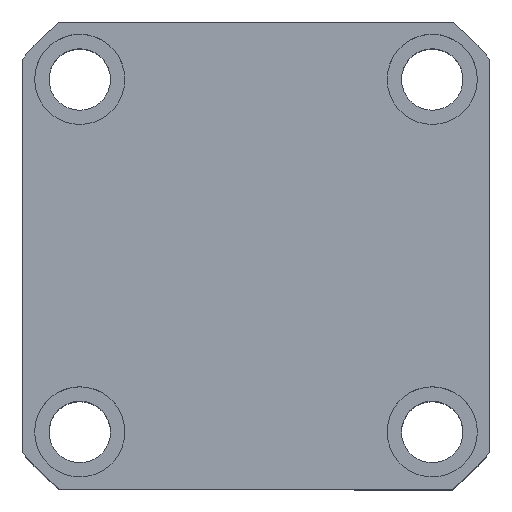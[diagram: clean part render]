
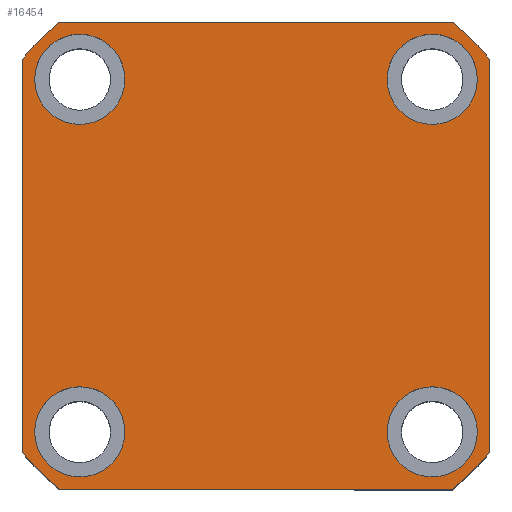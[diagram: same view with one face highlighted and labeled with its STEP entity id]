
A CAD part, top view. The second image highlights one B-rep face of the part: STEP entity #16454.
In plain terms, the highlighted planar face has unit normal (0, 0, 1) as drawn and (0, 0, -1) by its records, which use the part's own axes.
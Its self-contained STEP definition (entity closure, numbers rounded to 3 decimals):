
#145 = VERTEX_POINT ( 'NONE', #15303 ) ;
#303 = CIRCLE ( 'NONE', #19655, 11. ) ;
#502 = EDGE_CURVE ( 'NONE', #10354, #7728, #3028, .T. ) ;
#652 = DIRECTION ( 'NONE',  ( 0., 0., -1. ) ) ;
#840 = VERTEX_POINT ( 'NONE', #8648 ) ;
#1048 = CIRCLE ( 'NONE', #4231, 74.5 ) ;
#1173 = VERTEX_POINT ( 'NONE', #7634 ) ;
#1177 = CARTESIAN_POINT ( 'NONE',  ( 32., -43., 0. ) ) ;
#1225 = PLANE ( 'NONE',  #1729 ) ;
#1404 = CARTESIAN_POINT ( 'NONE',  ( -43., -43., 0. ) ) ;
#1467 = EDGE_CURVE ( 'NONE', #17468, #17967, #10609, .T. ) ;
#1620 = CIRCLE ( 'NONE', #2298, 11. ) ;
#1729 = AXIS2_PLACEMENT_3D ( 'NONE', #12317, #2859, #13895 ) ;
#1750 = DIRECTION ( 'NONE',  ( 0., 0., 1. ) ) ;
#1798 = VECTOR ( 'NONE', #17613, 1000. ) ;
#1991 = CARTESIAN_POINT ( 'NONE',  ( -54., 43., 0. ) ) ;
#2002 = LINE ( 'NONE', #2777, #2514 ) ;
#2139 = EDGE_CURVE ( 'NONE', #19807, #3815, #8124, .T. ) ;
#2298 = AXIS2_PLACEMENT_3D ( 'NONE', #6820, #17810, #8400 ) ;
#2332 = CIRCLE ( 'NONE', #14894, 74.5 ) ;
#2422 = CARTESIAN_POINT ( 'NONE',  ( -57., -57., 0. ) ) ;
#2514 = VECTOR ( 'NONE', #12250, 1000. ) ;
#2777 = CARTESIAN_POINT ( 'NONE',  ( -57., 57., 0. ) ) ;
#2859 = DIRECTION ( 'NONE',  ( 0., 0., 1. ) ) ;
#2998 = CARTESIAN_POINT ( 'NONE',  ( 54., -43., 0. ) ) ;
#3023 = DIRECTION ( 'NONE',  ( -1., 0., 0. ) ) ;
#3028 = CIRCLE ( 'NONE', #5439, 11. ) ;
#3113 = CIRCLE ( 'NONE', #12928, 11. ) ;
#3119 = CARTESIAN_POINT ( 'NONE',  ( -32., 43., 0. ) ) ;
#3548 = VERTEX_POINT ( 'NONE', #14840 ) ;
#3588 = CARTESIAN_POINT ( 'NONE',  ( 57., 57., 0. ) ) ;
#3808 = DIRECTION ( 'NONE',  ( 0., 0., 1. ) ) ;
#3815 = VERTEX_POINT ( 'NONE', #15125 ) ;
#3837 = DIRECTION ( 'NONE',  ( 0., 0., -1. ) ) ;
#4089 = DIRECTION ( 'NONE',  ( 0., 0., -1. ) ) ;
#4231 = AXIS2_PLACEMENT_3D ( 'NONE', #13731, #4262, #15313 ) ;
#4262 = DIRECTION ( 'NONE',  ( 0., 0., 1. ) ) ;
#4742 = CARTESIAN_POINT ( 'NONE',  ( 43., -43., 0. ) ) ;
#5099 = AXIS2_PLACEMENT_3D ( 'NONE', #9044, #20055, #10637 ) ;
#5439 = AXIS2_PLACEMENT_3D ( 'NONE', #10210, #10287, #10495 ) ;
#5497 = FACE_BOUND ( 'NONE', #6026, .T. ) ;
#6026 = EDGE_LOOP ( 'NONE', ( #13993, #19977 ) ) ;
#6047 = LINE ( 'NONE', #6608, #1798 ) ;
#6350 = DIRECTION ( 'NONE',  ( -1., 0., 0. ) ) ;
#6389 = CARTESIAN_POINT ( 'NONE',  ( -47.971, 57., 0. ) ) ;
#6428 = EDGE_CURVE ( 'NONE', #10973, #8757, #1620, .T. ) ;
#6497 = CARTESIAN_POINT ( 'NONE',  ( -43., 43., 0. ) ) ;
#6540 = ORIENTED_EDGE ( 'NONE', *, *, #16188, .F. ) ;
#6555 = ORIENTED_EDGE ( 'NONE', *, *, #16712, .F. ) ;
#6608 = CARTESIAN_POINT ( 'NONE',  ( -57., 57., 0. ) ) ;
#6820 = CARTESIAN_POINT ( 'NONE',  ( 43., -43., 0. ) ) ;
#7002 = DIRECTION ( 'NONE',  ( 1., 0., 0. ) ) ;
#7076 = EDGE_CURVE ( 'NONE', #17967, #15948, #19146, .T. ) ;
#7315 = VERTEX_POINT ( 'NONE', #3119 ) ;
#7405 = CARTESIAN_POINT ( 'NONE',  ( 54., 43., 0. ) ) ;
#7506 = CIRCLE ( 'NONE', #14841, 11. ) ;
#7601 = EDGE_CURVE ( 'NONE', #7728, #10354, #11043, .T. ) ;
#7618 = VECTOR ( 'NONE', #16216, 1000. ) ;
#7634 = CARTESIAN_POINT ( 'NONE',  ( -32., -43., 0. ) ) ;
#7728 = VERTEX_POINT ( 'NONE', #8749 ) ;
#7918 = AXIS2_PLACEMENT_3D ( 'NONE', #13303, #3837, #14891 ) ;
#8094 = DIRECTION ( 'NONE',  ( -1., 0., 0. ) ) ;
#8124 = CIRCLE ( 'NONE', #11677, 74.5 ) ;
#8250 = EDGE_CURVE ( 'NONE', #3548, #145, #2332, .T. ) ;
#8400 = DIRECTION ( 'NONE',  ( -1., 0., 0. ) ) ;
#8593 = ORIENTED_EDGE ( 'NONE', *, *, #1467, .F. ) ;
#8648 = CARTESIAN_POINT ( 'NONE',  ( -54., -43., 0. ) ) ;
#8749 = CARTESIAN_POINT ( 'NONE',  ( 32., 43., 0. ) ) ;
#8757 = VERTEX_POINT ( 'NONE', #1177 ) ;
#9044 = CARTESIAN_POINT ( 'NONE',  ( 0., 0., 0. ) ) ;
#9186 = ORIENTED_EDGE ( 'NONE', *, *, #6428, .F. ) ;
#9212 = FACE_OUTER_BOUND ( 'NONE', #14675, .T. ) ;
#9495 = ORIENTED_EDGE ( 'NONE', *, *, #7076, .F. ) ;
#9671 = ORIENTED_EDGE ( 'NONE', *, *, #9957, .F. ) ;
#9957 = EDGE_CURVE ( 'NONE', #15925, #7315, #303, .T. ) ;
#10072 = VERTEX_POINT ( 'NONE', #14565 ) ;
#10163 = CARTESIAN_POINT ( 'NONE',  ( -43., -43., 0. ) ) ;
#10210 = CARTESIAN_POINT ( 'NONE',  ( 43., 43., 0. ) ) ;
#10287 = DIRECTION ( 'NONE',  ( 0., 0., -1. ) ) ;
#10354 = VERTEX_POINT ( 'NONE', #7405 ) ;
#10489 = EDGE_CURVE ( 'NONE', #8757, #10973, #3113, .T. ) ;
#10495 = DIRECTION ( 'NONE',  ( -1., 0., 0. ) ) ;
#10598 = ORIENTED_EDGE ( 'NONE', *, *, #16851, .F. ) ;
#10609 = LINE ( 'NONE', #3588, #7618 ) ;
#10637 = DIRECTION ( 'NONE',  ( 1., 0., 0. ) ) ;
#10973 = VERTEX_POINT ( 'NONE', #2998 ) ;
#11043 = CIRCLE ( 'NONE', #7918, 11. ) ;
#11254 = CARTESIAN_POINT ( 'NONE',  ( 0., 0., 0. ) ) ;
#11486 = ORIENTED_EDGE ( 'NONE', *, *, #12438, .F. ) ;
#11677 = AXIS2_PLACEMENT_3D ( 'NONE', #13278, #3808, #14860 ) ;
#11679 = LINE ( 'NONE', #2422, #19548 ) ;
#11750 = DIRECTION ( 'NONE',  ( -1., 0., 0. ) ) ;
#12211 = EDGE_CURVE ( 'NONE', #10072, #17468, #1048, .T. ) ;
#12243 = ORIENTED_EDGE ( 'NONE', *, *, #16165, .F. ) ;
#12250 = DIRECTION ( 'NONE',  ( -1., 0., 0. ) ) ;
#12317 = CARTESIAN_POINT ( 'NONE',  ( 0., 0., 0. ) ) ;
#12438 = EDGE_CURVE ( 'NONE', #1173, #840, #19578, .T. ) ;
#12490 = DIRECTION ( 'NONE',  ( 0., 0., -1. ) ) ;
#12613 = EDGE_CURVE ( 'NONE', #3815, #3548, #6047, .T. ) ;
#12699 = ORIENTED_EDGE ( 'NONE', *, *, #8250, .F. ) ;
#12713 = AXIS2_PLACEMENT_3D ( 'NONE', #1404, #12490, #3023 ) ;
#12826 = DIRECTION ( 'NONE',  ( 1., 0., 0. ) ) ;
#12928 = AXIS2_PLACEMENT_3D ( 'NONE', #4742, #15791, #6350 ) ;
#13065 = CARTESIAN_POINT ( 'NONE',  ( 47.971, 57., 0. ) ) ;
#13175 = EDGE_LOOP ( 'NONE', ( #16249, #9186 ) ) ;
#13278 = CARTESIAN_POINT ( 'NONE',  ( 0., 0., 0. ) ) ;
#13303 = CARTESIAN_POINT ( 'NONE',  ( 43., 43., 0. ) ) ;
#13393 = FACE_BOUND ( 'NONE', #17256, .T. ) ;
#13448 = ORIENTED_EDGE ( 'NONE', *, *, #12613, .F. ) ;
#13553 = CARTESIAN_POINT ( 'NONE',  ( -43., 43., 0. ) ) ;
#13731 = CARTESIAN_POINT ( 'NONE',  ( 0., 0., 0. ) ) ;
#13799 = CARTESIAN_POINT ( 'NONE',  ( 57., -47.971, 0. ) ) ;
#13895 = DIRECTION ( 'NONE',  ( 1., 0., 0. ) ) ;
#13911 = FACE_BOUND ( 'NONE', #13175, .T. ) ;
#13993 = ORIENTED_EDGE ( 'NONE', *, *, #7601, .F. ) ;
#14565 = CARTESIAN_POINT ( 'NONE',  ( 47.971, -57., 0. ) ) ;
#14675 = EDGE_LOOP ( 'NONE', ( #9495, #8593, #17357, #12243, #12699, #13448, #18361, #10598 ) ) ;
#14840 = CARTESIAN_POINT ( 'NONE',  ( -57., -47.971, 0. ) ) ;
#14841 = AXIS2_PLACEMENT_3D ( 'NONE', #13553, #4089, #15139 ) ;
#14860 = DIRECTION ( 'NONE',  ( 1., 0., 0. ) ) ;
#14874 = CARTESIAN_POINT ( 'NONE',  ( 57., 47.971, 0. ) ) ;
#14891 = DIRECTION ( 'NONE',  ( -1., 0., 0. ) ) ;
#14894 = AXIS2_PLACEMENT_3D ( 'NONE', #11254, #1750, #12826 ) ;
#15125 = CARTESIAN_POINT ( 'NONE',  ( -57., 47.971, 0. ) ) ;
#15139 = DIRECTION ( 'NONE',  ( -1., 0., 0. ) ) ;
#15303 = CARTESIAN_POINT ( 'NONE',  ( -47.971, -57., 0. ) ) ;
#15313 = DIRECTION ( 'NONE',  ( 1., 0., 0. ) ) ;
#15532 = AXIS2_PLACEMENT_3D ( 'NONE', #10163, #652, #11750 ) ;
#15791 = DIRECTION ( 'NONE',  ( 0., 0., -1. ) ) ;
#15925 = VERTEX_POINT ( 'NONE', #1991 ) ;
#15948 = VERTEX_POINT ( 'NONE', #13065 ) ;
#16101 = CIRCLE ( 'NONE', #15532, 11. ) ;
#16165 = EDGE_CURVE ( 'NONE', #145, #10072, #11679, .T. ) ;
#16188 = EDGE_CURVE ( 'NONE', #7315, #15925, #7506, .T. ) ;
#16216 = DIRECTION ( 'NONE',  ( 0., 1., 0. ) ) ;
#16249 = ORIENTED_EDGE ( 'NONE', *, *, #10489, .F. ) ;
#16454 = ADVANCED_FACE ( 'NONE', ( #13393, #13911, #5497, #17573, #9212 ), #1225, .F. ) ;
#16712 = EDGE_CURVE ( 'NONE', #840, #1173, #16101, .T. ) ;
#16851 = EDGE_CURVE ( 'NONE', #15948, #19807, #2002, .T. ) ;
#17256 = EDGE_LOOP ( 'NONE', ( #6555, #11486 ) ) ;
#17357 = ORIENTED_EDGE ( 'NONE', *, *, #12211, .F. ) ;
#17415 = EDGE_LOOP ( 'NONE', ( #9671, #6540 ) ) ;
#17468 = VERTEX_POINT ( 'NONE', #13799 ) ;
#17514 = DIRECTION ( 'NONE',  ( 0., 0., -1. ) ) ;
#17573 = FACE_BOUND ( 'NONE', #17415, .T. ) ;
#17613 = DIRECTION ( 'NONE',  ( 0., -1., 0. ) ) ;
#17810 = DIRECTION ( 'NONE',  ( 0., 0., -1. ) ) ;
#17967 = VERTEX_POINT ( 'NONE', #14874 ) ;
#18361 = ORIENTED_EDGE ( 'NONE', *, *, #2139, .F. ) ;
#19146 = CIRCLE ( 'NONE', #5099, 74.5 ) ;
#19548 = VECTOR ( 'NONE', #7002, 1000. ) ;
#19578 = CIRCLE ( 'NONE', #12713, 11. ) ;
#19655 = AXIS2_PLACEMENT_3D ( 'NONE', #6497, #17514, #8094 ) ;
#19807 = VERTEX_POINT ( 'NONE', #6389 ) ;
#19977 = ORIENTED_EDGE ( 'NONE', *, *, #502, .F. ) ;
#20055 = DIRECTION ( 'NONE',  ( 0., 0., 1. ) ) ;
